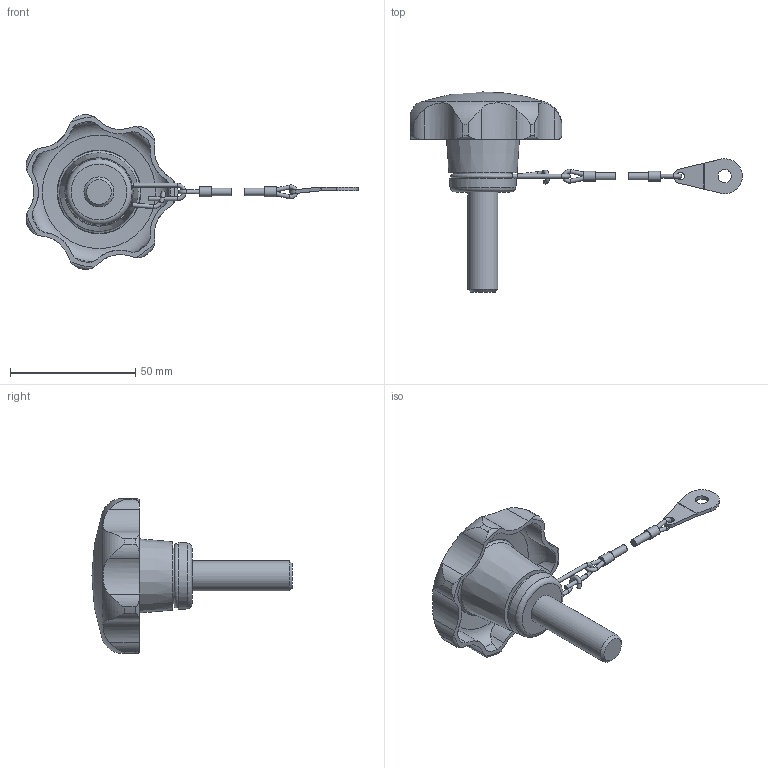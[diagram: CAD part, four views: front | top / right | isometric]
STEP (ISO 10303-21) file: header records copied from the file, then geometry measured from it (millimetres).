
FILE_DESCRIPTION( ( 'STEP AP203' ), '1' );
FILE_NAME( 'C:/Temp/Ganter_Step_05_03_2020/data/2_2/gn_6336_13/gn_6336_13_2/Star knob GN 6336.13-63-M12-40-H.stp', '2020-03-05T12:11:53', ( 'License CC BY-ND 4.0' ), ( 'CADENAS' ), ' ', 'PARTsolutions', ' ' );
FILE_SCHEMA( ( 'CONFIG_CONTROL_DESIGN' ) );
Length unit declared in the file: millimetre
Products named in the file (3): Star knob GN 6336.13-63-M12-40-H; _Star knob GN 6336.13-63-M12-40-H 6; _Star knob GN 111.2-200-14 h2
Assembly tree (2 placements, depth 2):
  Star knob GN 6336.13-63-M12-40-H
    _Star knob GN 6336.13-63-M12-40-H 6
    _Star knob GN 111.2-200-14 h2
Bounding box: 132.69 x 80 x 61.94 mm (x, y, z)
Volume: 46150.5 mm3; surface area: 15280.4 mm2
Topology: 2 solids, 2 shells, 140 faces, 380 edges, 246 vertices
Faces by surface type: cylinder 73, plane 35, torus 20, cone 11, sphere 1
Full cylindrical faces by diameter (mm): 1.6 x10, 3 x3, 4 x2, 5.3 x1, 12 x1, 22.3 x1
Entity records: 5224 total; most frequent: CARTESIAN_POINT 1831, DIRECTION 686, ORIENTED_EDGE 650, EDGE_CURVE 325, AXIS2_PLACEMENT_3D 295, VERTEX_POINT 234, EDGE_LOOP 192, FACE_OUTER_BOUND 170
